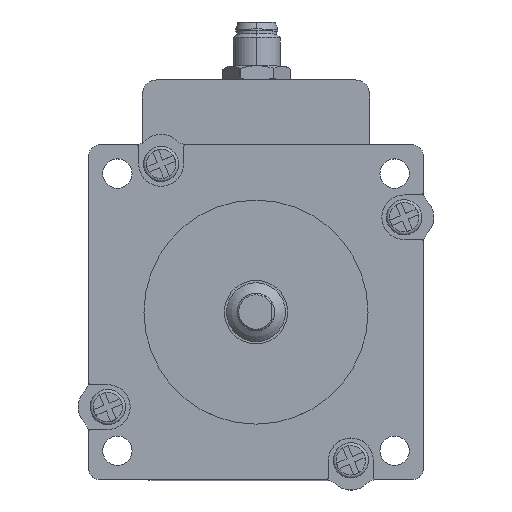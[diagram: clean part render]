
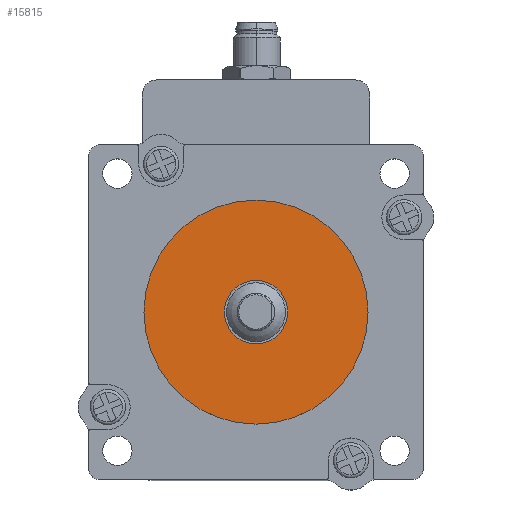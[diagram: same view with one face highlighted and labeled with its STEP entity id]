
A CAD part, top view. The second image highlights one B-rep face of the part: STEP entity #15815.
In plain terms, the highlighted planar face has unit normal (0, 0, 1).
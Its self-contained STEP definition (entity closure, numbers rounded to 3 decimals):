
#956=CIRCLE('',#2022,5.398);
#957=CIRCLE('',#2023,19.05);
#2021=AXIS2_PLACEMENT_3D('',#20167,#6197,$);
#2022=AXIS2_PLACEMENT_3D('',#20168,#6198,#6199);
#2023=AXIS2_PLACEMENT_3D('',#20170,#6200,#6201);
#2671=PLANE('',#2021);
#6197=DIRECTION('',(0.,0.,1.));
#6198=DIRECTION('',(0.,0.,-1.));
#6199=DIRECTION('',(5.398,0.,0.));
#6200=DIRECTION('',(0.,0.,-1.));
#6201=DIRECTION('',(19.05,0.,0.));
#8109=VERTEX_POINT('',#20169);
#8110=VERTEX_POINT('',#20171);
#9712=EDGE_CURVE('',#8109,#8109,#956,.T.);
#9713=EDGE_CURVE('',#8110,#8110,#957,.T.);
#12351=ORIENTED_EDGE('',*,*,#9712,.T.);
#12352=ORIENTED_EDGE('',*,*,#9713,.F.);
#14076=EDGE_LOOP('',(#12351));
#14077=EDGE_LOOP('',(#12352));
#14996=FACE_BOUND('',#14076,.T.);
#14997=FACE_BOUND('',#14077,.T.);
#15815=ADVANCED_FACE('',(#14996,#14997),#2671,.T.);
#20167=CARTESIAN_POINT('',(0.,0.,1.6));
#20168=CARTESIAN_POINT('',(0.,0.,1.6));
#20169=CARTESIAN_POINT('',(5.398,0.,1.6));
#20170=CARTESIAN_POINT('',(0.,0.,1.6));
#20171=CARTESIAN_POINT('',(19.05,0.,1.6));
